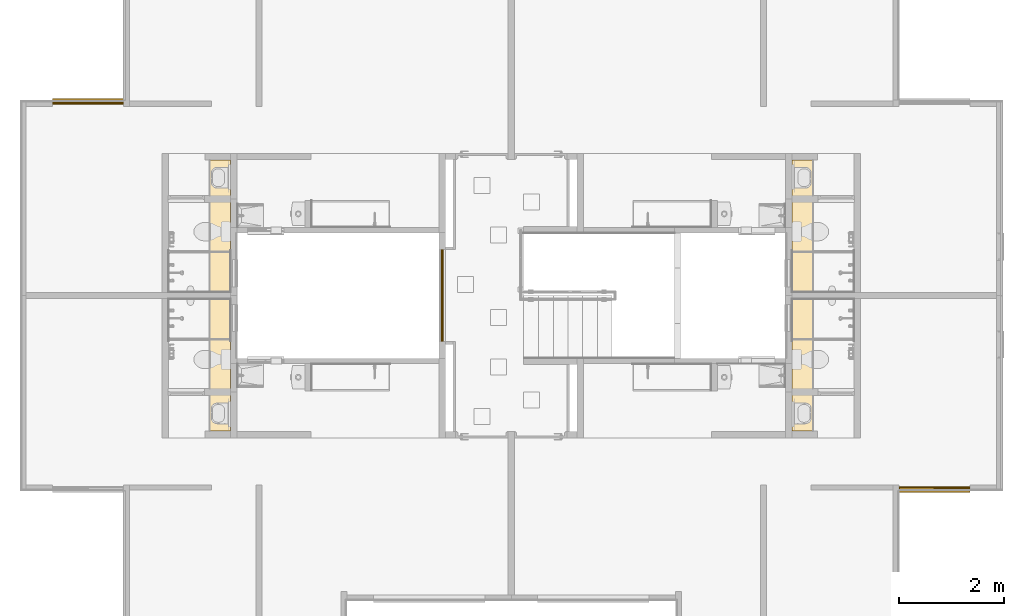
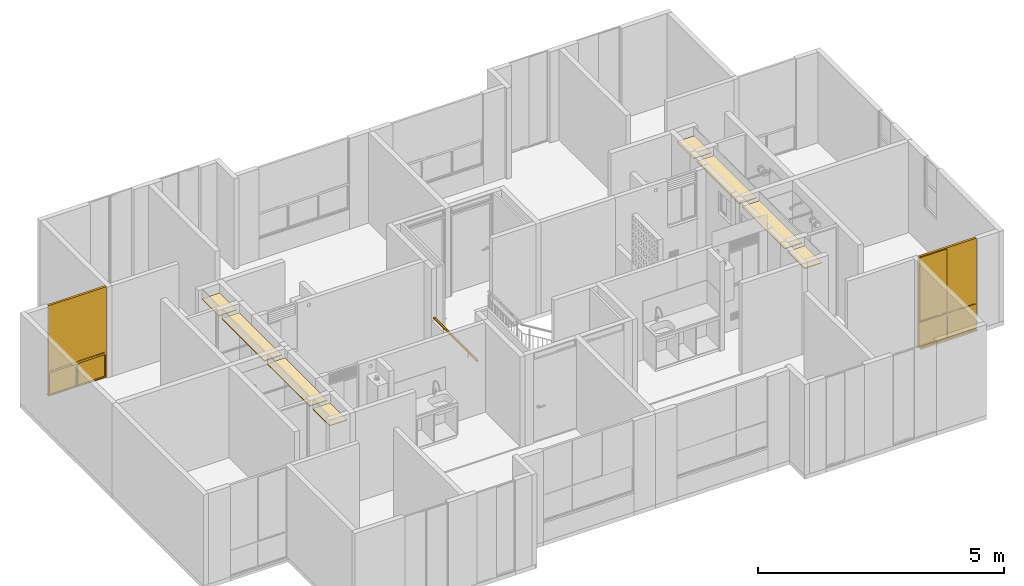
# One storey, part 36 of 47: 4 coverings, 2 windows, 1 railing.
"""IFC4 building model written with IfcOpenShell, lengths in metres."""

from ifc_helpers import new_model, entity, si_unit, converted_unit, derived_unit, direction, frame, origin, place, context, subcontext, project, spatial, arc, indexed_curve, outline, extrude, polygons, source, transform, mapped, material, constituent, constituent_set, type_object, type_shapes, element, save


model = new_model("IFC4")

# Units and contexts
model_context = context("Model", 3, precision=1e-05, world=origin(), true_north=direction((6.123031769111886e-17, 1.0)))
body_context = subcontext(model_context, "Body", "Model", "MODEL_VIEW")
ifc_project = project(units=[si_unit("LENGTHUNIT", "METRE"), si_unit("AREAUNIT", "SQUARE_METRE"), si_unit("VOLUMEUNIT", "CUBIC_METRE"), converted_unit("PLANEANGLEUNIT", "DEGREE", entity("IfcRatioMeasure", 0.017453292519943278), si_unit("PLANEANGLEUNIT", "RADIAN"), dimensions=[0, 0, 0, 0, 0, 0, 0]), si_unit("MASSUNIT", "GRAM", prefix="KILO"), derived_unit("MASSDENSITYUNIT", [(si_unit("MASSUNIT", "GRAM", prefix="KILO"), 1), (si_unit("LENGTHUNIT", "METRE"), -3)]), derived_unit("IONCONCENTRATIONUNIT", [(si_unit("MASSUNIT", "GRAM", prefix="KILO"), 1), (si_unit("LENGTHUNIT", "METRE"), -3)]), derived_unit("MOMENTOFINERTIAUNIT", [(si_unit("LENGTHUNIT", "METRE"), 4)]), si_unit("TIMEUNIT", "SECOND"), si_unit("FREQUENCYUNIT", "HERTZ"), si_unit("THERMODYNAMICTEMPERATUREUNIT", "DEGREE_CELSIUS"), derived_unit("THERMALTRANSMITTANCEUNIT", [(si_unit("MASSUNIT", "GRAM", prefix="KILO"), 1), (si_unit("THERMODYNAMICTEMPERATUREUNIT", "KELVIN"), -1), (si_unit("TIMEUNIT", "SECOND"), -3)]), derived_unit("THERMALCONDUCTANCEUNIT", [(si_unit("MASSUNIT", "GRAM", prefix="KILO"), 1), (si_unit("THERMODYNAMICTEMPERATUREUNIT", "KELVIN"), -1), (si_unit("TIMEUNIT", "SECOND"), -3), (si_unit("LENGTHUNIT", "METRE"), 1)]), derived_unit("VOLUMETRICFLOWRATEUNIT", [(si_unit("LENGTHUNIT", "METRE"), 3), (si_unit("TIMEUNIT", "SECOND"), -1)]), derived_unit("MASSFLOWRATEUNIT", [(si_unit("MASSUNIT", "GRAM", prefix="KILO"), 1), (si_unit("TIMEUNIT", "SECOND"), -1)]), derived_unit("ROTATIONALFREQUENCYUNIT", [(si_unit("TIMEUNIT", "SECOND"), -1)]), si_unit("ELECTRICCURRENTUNIT", "AMPERE"), si_unit("ELECTRICVOLTAGEUNIT", "VOLT"), si_unit("POWERUNIT", "WATT"), si_unit("FORCEUNIT", "NEWTON", prefix="KILO"), si_unit("ILLUMINANCEUNIT", "LUX"), si_unit("LUMINOUSFLUXUNIT", "LUMEN"), si_unit("LUMINOUSINTENSITYUNIT", "CANDELA"), derived_unit("USERDEFINED", [(si_unit("MASSUNIT", "GRAM", prefix="KILO"), -1), (si_unit("LENGTHUNIT", "METRE"), -2), (si_unit("TIMEUNIT", "SECOND"), 3), (si_unit("LUMINOUSFLUXUNIT", "LUMEN"), 1)]), derived_unit("USERDEFINED", [(si_unit("MASSUNIT", "GRAM", prefix="KILO"), 1), (si_unit("TIMEUNIT", "SECOND"), -3), (si_unit("LENGTHUNIT", "METRE"), 3), (si_unit("ELECTRICCURRENTUNIT", "AMPERE"), -2)]), derived_unit("SOUNDPOWERUNIT", [(si_unit("MASSUNIT", "GRAM", prefix="KILO"), 1), (si_unit("TIMEUNIT", "SECOND"), -3), (si_unit("LENGTHUNIT", "METRE"), 2)]), derived_unit("SOUNDPRESSUREUNIT", [(si_unit("MASSUNIT", "GRAM", prefix="KILO"), 1), (si_unit("LENGTHUNIT", "METRE"), -1), (si_unit("TIMEUNIT", "SECOND"), -2)]), derived_unit("LINEARVELOCITYUNIT", [(si_unit("LENGTHUNIT", "METRE"), 1), (si_unit("TIMEUNIT", "SECOND"), -1)]), si_unit("PRESSUREUNIT", "PASCAL"), derived_unit("USERDEFINED", [(si_unit("MASSUNIT", "GRAM", prefix="KILO"), 1), (si_unit("LENGTHUNIT", "METRE"), -2), (si_unit("TIMEUNIT", "SECOND"), -2)]), derived_unit("LINEARFORCEUNIT", [(si_unit("MASSUNIT", "GRAM", prefix="KILO"), 1), (si_unit("TIMEUNIT", "SECOND"), -2)]), derived_unit("PLANARFORCEUNIT", [(si_unit("MASSUNIT", "GRAM", prefix="KILO"), 1), (si_unit("LENGTHUNIT", "METRE"), -1), (si_unit("TIMEUNIT", "SECOND"), -2)]), derived_unit("SPECIFICHEATCAPACITYUNIT", [(si_unit("THERMODYNAMICTEMPERATUREUNIT", "KELVIN"), -1), (si_unit("LENGTHUNIT", "METRE"), 2), (si_unit("TIMEUNIT", "SECOND"), -2)]), derived_unit("HEATINGVALUEUNIT", [(si_unit("LENGTHUNIT", "METRE"), 2), (si_unit("TIMEUNIT", "SECOND"), -2)]), derived_unit("VAPORPERMEABILITYUNIT", [(si_unit("LENGTHUNIT", "METRE"), -1), (si_unit("TIMEUNIT", "SECOND"), 1)]), derived_unit("DYNAMICVISCOSITYUNIT", [(si_unit("MASSUNIT", "GRAM", prefix="KILO"), 1), (si_unit("TIMEUNIT", "SECOND"), -1), (si_unit("LENGTHUNIT", "METRE"), -1)]), derived_unit("THERMALEXPANSIONCOEFFICIENTUNIT", [(si_unit("THERMODYNAMICTEMPERATUREUNIT", "KELVIN"), -1)]), derived_unit("MODULUSOFELASTICITYUNIT", [(si_unit("MASSUNIT", "GRAM", prefix="KILO"), 1), (si_unit("LENGTHUNIT", "METRE"), -1), (si_unit("TIMEUNIT", "SECOND"), -2)]), derived_unit("ISOTHERMALMOISTURECAPACITYUNIT", [(si_unit("LENGTHUNIT", "METRE"), 3), (si_unit("MASSUNIT", "GRAM", prefix="KILO"), -1)]), derived_unit("MOISTUREDIFFUSIVITYUNIT", [(si_unit("TIMEUNIT", "SECOND"), -1), (si_unit("LENGTHUNIT", "METRE"), 2)])], contexts=[model_context])

# Site, building, storey
site_placement = place(None, origin())
site = spatial("IfcSite", under=ifc_project, at=site_placement, Name="Default", CompositionType="ELEMENT")
building_placement = place(site_placement, origin())
building = spatial("IfcBuilding", under=site, at=building_placement, CompositionType="ELEMENT")
storey_placement = place(building_placement, frame((0.0, 0.0, 11.750000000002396)))
storey = spatial("IfcBuildingStorey", under=building, at=storey_placement, Name="Nivel 6", CompositionType="ELEMENT", Elevation=11.750000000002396)

# Windows
ifc_material_1 = material(Name="Vidrio", Category="Materials")
ifc_constituent_1 = constituent(ifc_material_1, Name="Vidrio", Category="Materials")
ifc_material_2 = material(Name="Aluminio", Category="Materials")
ifc_constituent_2 = constituent(ifc_material_2, Name="Aluminio", Category="Materials")
ifc_material_3 = material(Name="<Unnamed>")
ifc_constituent_3 = constituent(ifc_material_3, Name="<Unnamed>")
ifc_constituent_set_1 = constituent_set(constituents=[ifc_constituent_1, ifc_constituent_2, ifc_constituent_3])
ifc_constituent_4 = constituent(ifc_material_1, Name="Vidrio", Category="Materials")
ifc_constituent_5 = constituent(ifc_material_2, Name="Aluminio", Category="Materials")
ifc_constituent_6 = constituent(ifc_material_3, Name="<Unnamed>")
ifc_constituent_set_2 = constituent_set(constituents=[ifc_constituent_4, ifc_constituent_5, ifc_constituent_6])
window_type = type_object("IfcWindowType", Name="B2020 - Ventana corrediza - Aluminio + Vidrio:B2020 - 1.35m x 2.25m - Ventana corrediza 2C - Aluminio + Vidrio", PartitioningType="NOTDEFINED", PredefinedType="WINDOW", material=ifc_constituent_set_2)
shared_shape = source(origin(), body_context, "Body", "Tessellation", [
    polygons([(0.020000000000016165, 0.044249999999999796, 2.2300000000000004), (0.020000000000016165, 0.044249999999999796, 0.6174999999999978), (0.6750000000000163, 0.04424999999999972, 0.6174999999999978), (0.6750000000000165, 0.04424999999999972, 2.2300000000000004), (0.6750000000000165, 0.04824999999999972, 2.2300000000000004), (0.020000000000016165, 0.04824999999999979, 2.2300000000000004), (0.6750000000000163, 0.04824999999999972, 0.6174999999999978), (0.020000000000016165, 0.04824999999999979, 0.6174999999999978)], [[[1, 2, 3, 4]], [[4, 5, 6, 1]], [[3, 7, 5, 4]], [[1, 6, 8, 2]], [[6, 5, 7, 8]], [[2, 8, 7, 3]]], closed=True),
    polygons([(1.3300000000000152, 0.04424999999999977, 2.2300000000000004), (0.6700000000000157, 0.044249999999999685, 2.2300000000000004), (0.6700000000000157, 0.044249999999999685, 0.6174999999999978), (1.3300000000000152, 0.04424999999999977, 0.6174999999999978), (1.3300000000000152, 0.048249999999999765, 0.6174999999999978), (1.3300000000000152, 0.048249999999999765, 2.2300000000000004), (0.6700000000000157, 0.04824999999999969, 2.2300000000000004), (0.6700000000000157, 0.04824999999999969, 0.6174999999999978)], [[[1, 2, 3, 4]], [[4, 5, 6, 1]], [[2, 7, 8, 3]], [[1, 6, 7, 2]], [[6, 5, 8, 7]], [[3, 8, 5, 4]]], closed=True),
    polygons([(0.6700000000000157, 0.048249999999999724, 0.6174999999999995), (0.6700000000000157, 0.048249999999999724, 2.230000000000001), (0.6700000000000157, 0.044249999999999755, 2.230000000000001), (0.6700000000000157, 0.044249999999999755, 0.6174999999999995), (1.3300000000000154, 0.04424999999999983, 2.230000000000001), (1.3300000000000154, 0.04424999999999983, 0.6174999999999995), (0.685000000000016, 0.044249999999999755, 2.2150000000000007), (0.685000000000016, 0.044249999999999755, 0.6324999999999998), (1.315000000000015, 0.04424999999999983, 0.6324999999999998), (1.315000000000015, 0.04424999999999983, 2.2150000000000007), (1.3300000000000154, 0.0482499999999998, 2.230000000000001), (1.3300000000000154, 0.0482499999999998, 0.6174999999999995), (0.685000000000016, 0.048249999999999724, 0.6324999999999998), (0.685000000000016, 0.048249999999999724, 2.2150000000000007), (1.315000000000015, 0.04824999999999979, 2.2150000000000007), (1.315000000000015, 0.04824999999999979, 0.6324999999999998), (0.685000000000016, 0.05299999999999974, 0.6324999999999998), (0.685000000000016, 0.05299999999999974, 2.2150000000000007), (1.315000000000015, 0.05299999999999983, 2.2150000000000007), (1.315000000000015, 0.05299999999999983, 0.6324999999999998), (0.6650000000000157, 0.05299999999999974, 0.6124999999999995), (0.6650000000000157, 0.05299999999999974, 2.2350000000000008), (1.3350000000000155, 0.05299999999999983, 2.2350000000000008), (1.3350000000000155, 0.05299999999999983, 0.6124999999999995), (0.6650000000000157, 0.03949999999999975, 0.6124999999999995), (0.6650000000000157, 0.03949999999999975, 2.2350000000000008), (1.3350000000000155, 0.03949999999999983, 2.2350000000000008), (1.3350000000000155, 0.03949999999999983, 0.6124999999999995), (0.685000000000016, 0.03949999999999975, 0.6324999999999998), (0.685000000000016, 0.03949999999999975, 2.2150000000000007), (1.315000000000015, 0.03949999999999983, 2.2150000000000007), (1.315000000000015, 0.03949999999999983, 0.6324999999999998)], [[[1, 2, 3, 4]], [[4, 3, 5, 6], [7, 8, 9, 10]], [[2, 11, 5, 3]], [[2, 1, 12, 11], [13, 14, 15, 16]], [[17, 18, 14, 13]], [[18, 19, 15, 14]], [[21, 22, 23, 24], [18, 17, 20, 19]], [[25, 26, 22, 21]], [[26, 27, 23, 22]], [[26, 25, 28, 27], [29, 30, 31, 32]], [[8, 7, 30, 29]], [[7, 10, 31, 30]], [[11, 12, 6, 5]], [[19, 20, 16, 15]], [[27, 28, 24, 23]], [[10, 9, 32, 31]], [[12, 1, 4, 6]], [[20, 17, 13, 16]], [[28, 25, 21, 24]], [[9, 8, 29, 32]]], closed=True),
    polygons([(0.6800000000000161, 0.06674999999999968, 2.229999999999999), (0.02000000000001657, 0.06674999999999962, 2.229999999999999), (0.02000000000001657, 0.06674999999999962, 0.6174999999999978), (0.6800000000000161, 0.06674999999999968, 0.6174999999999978), (0.6800000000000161, 0.07074999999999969, 0.6174999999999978), (0.6800000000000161, 0.07074999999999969, 2.229999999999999), (0.02000000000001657, 0.0707499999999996, 2.229999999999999), (0.02000000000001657, 0.0707499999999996, 0.6174999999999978)], [[[1, 2, 3, 4]], [[4, 5, 6, 1]], [[2, 7, 8, 3]], [[1, 6, 7, 2]], [[6, 5, 8, 7]], [[3, 8, 5, 4]]], closed=True),
    polygons([(0.020000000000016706, 0.07074999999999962, 0.6175), (0.020000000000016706, 0.07074999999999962, 2.2299999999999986), (0.020000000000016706, 0.06674999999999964, 2.2299999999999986), (0.020000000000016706, 0.06674999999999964, 0.6175), (0.6800000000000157, 0.06674999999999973, 2.2299999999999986), (0.6800000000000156, 0.06674999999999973, 0.6175000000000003), (0.035000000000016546, 0.06674999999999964, 2.214999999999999), (0.035000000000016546, 0.06674999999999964, 0.6324999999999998), (0.6650000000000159, 0.06674999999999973, 0.6324999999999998), (0.6650000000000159, 0.06674999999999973, 2.214999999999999), (0.6800000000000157, 0.0707499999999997, 2.2299999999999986), (0.6800000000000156, 0.0707499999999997, 0.6175), (0.035000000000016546, 0.07074999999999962, 0.6324999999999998), (0.035000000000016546, 0.07074999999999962, 2.214999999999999), (0.6650000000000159, 0.0707499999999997, 2.214999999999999), (0.6650000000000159, 0.0707499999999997, 0.6324999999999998), (0.035000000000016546, 0.07549999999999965, 0.6324999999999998), (0.035000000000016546, 0.07549999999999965, 2.214999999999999), (0.6650000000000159, 0.07549999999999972, 2.214999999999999), (0.6650000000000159, 0.07549999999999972, 0.6324999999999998), (0.015000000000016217, 0.07549999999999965, 0.6124999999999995), (0.015000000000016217, 0.07549999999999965, 2.2349999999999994), (0.6850000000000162, 0.07549999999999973, 2.2349999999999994), (0.685000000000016, 0.07549999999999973, 0.6124999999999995), (0.015000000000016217, 0.06199999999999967, 0.6124999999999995), (0.015000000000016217, 0.06199999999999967, 2.2349999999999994), (0.6850000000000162, 0.06199999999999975, 2.2349999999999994), (0.685000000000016, 0.06199999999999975, 0.6124999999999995), (0.035000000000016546, 0.06199999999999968, 0.6324999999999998), (0.035000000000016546, 0.06199999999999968, 2.214999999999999), (0.6650000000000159, 0.06199999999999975, 2.214999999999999), (0.6650000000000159, 0.06199999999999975, 0.6324999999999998)], [[[1, 2, 3, 4]], [[4, 3, 5, 6], [7, 8, 9, 10]], [[2, 11, 5, 3]], [[2, 1, 12, 11], [13, 14, 15, 16]], [[17, 18, 14, 13]], [[18, 19, 15, 14]], [[21, 22, 23, 24], [18, 17, 20, 19]], [[25, 26, 22, 21]], [[26, 27, 23, 22]], [[26, 25, 28, 27], [29, 30, 31, 32]], [[8, 7, 30, 29]], [[7, 10, 31, 30]], [[11, 12, 6, 5]], [[19, 20, 16, 15]], [[27, 28, 24, 23]], [[10, 9, 32, 31]], [[12, 1, 4, 6]], [[20, 17, 13, 16]], [[28, 25, 21, 24]], [[9, 8, 29, 32]]], closed=True),
    polygons([(0.025000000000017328, 0.037499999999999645, 2.224999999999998), (1.3250000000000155, 0.037499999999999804, 2.2249999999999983), (1.3250000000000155, 0.03249999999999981, 2.2249999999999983), (0.025000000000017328, 0.03249999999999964, 2.224999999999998), (1.325000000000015, 0.037499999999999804, 0.6200000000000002), (1.3250000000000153, 0.03249999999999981, 0.6200000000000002), (0.025000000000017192, 0.03249999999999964, 0.6200000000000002), (1.3500000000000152, 0.03249999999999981, 0.595), (1.3500000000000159, 0.03249999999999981, 2.2499999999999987), (1.6919798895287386e-14, 0.03249999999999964, 2.2499999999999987), (1.6919798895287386e-14, 0.03249999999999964, 0.595), (0.025000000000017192, 0.037499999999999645, 0.6200000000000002), (1.345000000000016, 0.037499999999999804, 2.2449999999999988), (1.3450000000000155, 0.037499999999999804, 0.5999999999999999), (0.005000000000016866, 0.037499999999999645, 0.5999999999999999), (0.005000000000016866, 0.037499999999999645, 2.2449999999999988), (0.005000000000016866, 0.054999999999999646, 2.2449999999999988), (1.345000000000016, 0.05499999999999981, 2.2449999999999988), (1.3450000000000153, 0.05499999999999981, 0.5999999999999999), (0.005000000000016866, 0.054999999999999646, 0.5999999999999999), (1.3250000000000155, 0.054999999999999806, 2.2249999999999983), (1.3250000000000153, 0.054999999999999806, 0.6200000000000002), (0.025000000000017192, 0.05499999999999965, 0.6200000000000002), (0.025000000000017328, 0.05499999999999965, 2.2249999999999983), (0.025000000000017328, 0.05999999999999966, 2.224999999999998), (1.3250000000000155, 0.05999999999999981, 2.2249999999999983), (1.325000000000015, 0.05999999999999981, 0.6200000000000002), (0.025000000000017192, 0.05999999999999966, 0.6200000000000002), (1.345000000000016, 0.05999999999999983, 2.2449999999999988), (1.3450000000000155, 0.05999999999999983, 0.5999999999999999), (0.005000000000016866, 0.05999999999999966, 0.5999999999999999), (0.005000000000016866, 0.05999999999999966, 2.2449999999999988), (0.005000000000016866, 0.07749999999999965, 2.2449999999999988), (1.345000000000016, 0.07749999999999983, 2.2449999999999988), (1.3450000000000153, 0.07749999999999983, 0.5999999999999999), (0.005000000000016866, 0.07749999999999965, 0.5999999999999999), (1.3250000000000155, 0.07749999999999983, 2.2249999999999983), (1.3250000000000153, 0.07749999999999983, 0.6200000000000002), (0.025000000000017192, 0.07749999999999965, 0.6200000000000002), (0.025000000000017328, 0.07749999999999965, 2.2249999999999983), (0.025000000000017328, 0.08249999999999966, 2.224999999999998), (1.3250000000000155, 0.08249999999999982, 2.2249999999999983), (1.325000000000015, 0.08249999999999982, 0.6200000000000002), (0.025000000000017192, 0.08249999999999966, 0.6200000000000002), (1.3500000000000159, 0.08249999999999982, 2.2499999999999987), (1.3500000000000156, 0.08249999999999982, 0.595), (1.6919798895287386e-14, 0.08249999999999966, 0.595), (1.6919798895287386e-14, 0.08249999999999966, 2.2499999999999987)], [[[1, 2, 3, 4]], [[2, 5, 6, 3]], [[8, 9, 10, 11], [3, 6, 7, 4]], [[13, 14, 15, 16], [5, 2, 1, 12]], [[17, 18, 13, 16]], [[18, 19, 14, 13]], [[19, 18, 17, 20], [21, 22, 23, 24]], [[25, 26, 21, 24]], [[26, 27, 22, 21]], [[29, 30, 31, 32], [27, 26, 25, 28]], [[33, 34, 29, 32]], [[34, 35, 30, 29]], [[35, 34, 33, 36], [37, 38, 39, 40]], [[41, 42, 37, 40]], [[42, 43, 38, 37]], [[45, 46, 47, 48], [43, 42, 41, 44]], [[10, 9, 45, 48]], [[9, 8, 46, 45]], [[12, 1, 4, 7]], [[20, 17, 16, 15]], [[28, 25, 24, 23]], [[36, 33, 32, 31]], [[44, 41, 40, 39]], [[11, 10, 48, 47]], [[5, 12, 7, 6]], [[19, 20, 15, 14]], [[27, 28, 23, 22]], [[35, 36, 31, 30]], [[43, 44, 39, 38]], [[8, 11, 47, 46]]], closed=True),
    polygons([(1.330000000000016, 0.08250000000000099, 0.5749999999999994), (1.330000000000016, 0.08250000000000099, 0.020000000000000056), (1.330000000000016, 0.0324999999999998, 0.020000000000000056), (1.330000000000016, 0.03249999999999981, 0.5749999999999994), (0.6850000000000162, 0.08250000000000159, 0.01999999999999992), (0.6850000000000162, 0.03250000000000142, 0.01999999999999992), (1.3500000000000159, 0.03250000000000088, 0.5949999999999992), (1.3500000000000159, 0.03250000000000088, 2.707167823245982e-16), (1.3500000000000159, 0.08249999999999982, 2.707167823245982e-16), (1.3500000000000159, 0.08249999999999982, 0.5949999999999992), (1.624300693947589e-14, 0.03250000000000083, 2.707167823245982e-16), (1.624300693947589e-14, 0.08249999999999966, 2.707167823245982e-16), (0.020000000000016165, 0.08250000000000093, 0.020000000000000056), (0.020000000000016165, 0.08250000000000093, 0.5749999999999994), (0.02000000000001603, 0.03249999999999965, 0.5749999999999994), (0.02000000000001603, 0.03249999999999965, 0.020000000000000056), (1.624300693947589e-14, 0.03250000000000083, 0.5949999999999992), (1.624300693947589e-14, 0.08249999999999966, 0.5949999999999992), (0.6650000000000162, 0.08250000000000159, 0.5749999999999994), (0.6650000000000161, 0.03250000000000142, 0.5749999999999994), (0.6650000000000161, 0.08250000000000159, 0.01999999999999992), (0.6650000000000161, 0.03250000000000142, 0.01999999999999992), (0.6850000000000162, 0.03250000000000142, 0.5749999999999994), (0.6850000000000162, 0.08250000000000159, 0.5749999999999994)], [[[1, 2, 3, 4]], [[2, 5, 6, 3]], [[7, 8, 9, 10]], [[8, 11, 12, 9]], [[13, 14, 15, 16]], [[11, 17, 18, 12]], [[14, 19, 20, 15]], [[10, 18, 17, 7]], [[21, 22, 20, 19]], [[7, 17, 11, 8], [22, 16, 15, 20], [23, 4, 3, 6]], [[24, 23, 6, 5]], [[9, 12, 18, 10], [5, 2, 1, 24], [19, 14, 13, 21]], [[4, 23, 24, 1]], [[16, 22, 21, 13]]], closed=True),
    polygons([(0.6650000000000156, 0.07213901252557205, 0.019999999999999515), (0.6650000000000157, 0.06813901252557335, 0.019999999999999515), (0.020000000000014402, 0.06813901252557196, 0.019999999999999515), (0.020000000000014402, 0.07213901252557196, 0.019999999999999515), (0.6650000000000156, 0.07213901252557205, 0.5849999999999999), (0.020000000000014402, 0.07213901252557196, 0.5849999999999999), (0.020000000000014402, 0.06813901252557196, 0.5849999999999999), (0.6650000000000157, 0.06813901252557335, 0.5849999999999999)], [[[1, 2, 3, 4]], [[5, 1, 4, 6]], [[6, 4, 3, 7]], [[7, 3, 2, 8]], [[8, 2, 1, 5]], [[5, 6, 7, 8]]], closed=True),
    polygons([(0.6850000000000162, 0.07213901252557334, 0.019999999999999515), (1.3300000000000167, 0.07213901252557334, 0.019999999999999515), (1.3300000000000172, 0.06813901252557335, 0.019999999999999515), (0.6850000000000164, 0.06813901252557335, 0.019999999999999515), (0.6850000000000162, 0.07213901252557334, 0.5849999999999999), (0.6850000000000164, 0.06813901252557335, 0.5849999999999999), (1.3300000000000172, 0.06813901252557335, 0.5849999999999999), (1.3300000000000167, 0.07213901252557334, 0.5849999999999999)], [[[1, 2, 3, 4]], [[5, 1, 4, 6]], [[6, 4, 3, 7]], [[7, 3, 2, 8]], [[8, 2, 1, 5]], [[5, 6, 7, 8]]], closed=True),
    polygons([(1.350000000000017, 0.11499999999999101, -4.060751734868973e-16), (1.350000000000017, 0.14098076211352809, -0.015000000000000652), (1.350000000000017, 0.14348076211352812, -0.010669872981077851), (1.350000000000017, 0.11633974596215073, 0.0049999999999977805), (1.350000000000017, 0.08249999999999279, 0.0049999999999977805), (1.350000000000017, 0.08249999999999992, -4.060751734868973e-16), (1.7461232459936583e-14, 0.11499999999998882, -4.060751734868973e-16), (1.7461232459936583e-14, 0.08249999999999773, -4.060751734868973e-16), (1.7461232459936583e-14, 0.08249999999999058, 0.0049999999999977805), (1.7461232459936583e-14, 0.11633974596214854, 0.0049999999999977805), (1.7325874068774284e-14, 0.14348076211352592, -0.010669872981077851), (1.7325874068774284e-14, 0.1409807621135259, -0.015000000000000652)], [[[1, 2, 3, 4, 5, 6]], [[7, 8, 9, 10, 11, 12]], [[6, 8, 7, 1]], [[5, 9, 8, 6]], [[4, 10, 9, 5]], [[3, 11, 10, 4]], [[2, 12, 11, 3]], [[1, 7, 12, 2]]], closed=True),
])
type_shapes(window_type, [shared_shape])
window_1_placement = place(storey_placement, frame((0.5674999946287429, -2.810000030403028, 0.0)))
element("IfcWindow", 1, at=window_1_placement, inside=storey, type_object=window_type, material=ifc_constituent_set_1, Name="B2020 - Ventana corrediza - Aluminio + Vidrio:B2020 - 1.35m x 2.25m - Ventana corrediza 2C - Aluminio + Vidrio", ObjectType="B2020 - Ventana corrediza - Aluminio + Vidrio:B2020 - 1.35m x 2.25m - Ventana corrediza 2C - Aluminio + Vidrio", OverallHeight=2.265, OverallWidth=1.3500000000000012, PartitioningType="NOTDEFINED", PredefinedType="WINDOW", context=body_context, shape_type="MappedRepresentation", body=[
    mapped(shared_shape, transform((0.0, 0.0, 0.0), scale=1.0)),
])
ifc_constituent_7 = constituent(ifc_material_1, Name="Vidrio", Category="Materials")
ifc_constituent_8 = constituent(ifc_material_2, Name="Aluminio", Category="Materials")
ifc_constituent_9 = constituent(ifc_material_3, Name="<Unnamed>")
ifc_constituent_set_3 = constituent_set(constituents=[ifc_constituent_7, ifc_constituent_8, ifc_constituent_9])
window_2_placement = place(storey_placement, frame((18.077500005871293, -10.040000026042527, 0.0), z_axis=(0.0, 0.0, 1.0), x_axis=(-1.0, 0.0, 0.0)))
element("IfcWindow", 2, at=window_2_placement, inside=storey, type_object=window_type, material=ifc_constituent_set_3, Name="B2020 - Ventana corrediza - Aluminio + Vidrio:B2020 - 1.35m x 2.25m - Ventana corrediza 2C - Aluminio + Vidrio", ObjectType="B2020 - Ventana corrediza - Aluminio + Vidrio:B2020 - 1.35m x 2.25m - Ventana corrediza 2C - Aluminio + Vidrio", OverallHeight=2.265, OverallWidth=1.3500000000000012, PartitioningType="NOTDEFINED", PredefinedType="WINDOW", context=body_context, shape_type="MappedRepresentation", body=[
    mapped(shared_shape, transform((0.0, 0.0, 0.0), scale=1.0)),
])

# Space
space_1_placement = place(storey_placement, origin())
space_1 = spatial("IfcSpace", under=storey, at=space_1_placement, Name="319", CompositionType="ELEMENT", PredefinedType="SPACE")

# Covering
ifc_material_4 = material(Name="Plasterboard", Category="Materials")
covering_type = type_object("IfcCoveringType", Name="Compound Ceiling:C1070 - 0.02m - Plafón - Drywall", PredefinedType="CEILING")
covering_1_placement = place(space_1_placement, origin())
element("IfcCovering", 3, at=covering_1_placement, inside=space_1, type_object=covering_type, material=ifc_material_4, Name="Compound Ceiling:C1070 - 0.02m - Plafón - Drywall", ObjectType="Compound Ceiling:C1070 - 0.02m - Plafón - Drywall", PredefinedType="CEILING", context=body_context, shape_type="SweptSolid", body=[
    extrude(outline(indexed_curve([(-0.862499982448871, -0.20500000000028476), (0.8624999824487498, -0.20500000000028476), (0.862499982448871, 0.20500000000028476), (-0.8624999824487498, 0.20500000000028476), (-0.862499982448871, -0.20500000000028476)], self_intersect=False)), frame((3.7574999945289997, -5.502500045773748, 2.0), z_axis=(0.0, 0.0, 1.0), x_axis=(0.0, 1.0, 0.0)), (0.0, 0.0, 1.0), 0.019999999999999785),
    extrude(outline(indexed_curve([(-0.3449999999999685, -0.20500000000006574), (0.3449999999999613, -0.20500000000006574), (0.3449999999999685, 0.20500000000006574), (-0.3449999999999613, 0.20500000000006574), (-0.3449999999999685, -0.20500000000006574)], self_intersect=False)), frame((3.7574999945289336, -4.18000006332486, 2.0), z_axis=(0.0, 0.0, 1.0), x_axis=(0.0, 1.0, 0.0)), (0.0, 0.0, 1.0), 0.019999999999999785),
])

# Space
space_2_placement = place(storey_placement, origin())
space_2 = spatial("IfcSpace", under=storey, at=space_2_placement, Name="326", CompositionType="ELEMENT", PredefinedType="SPACE")

# Covering
covering_2_placement = place(space_2_placement, origin())
element("IfcCovering", 4, at=covering_2_placement, inside=space_2, type_object=covering_type, material=ifc_material_4, Name="Compound Ceiling:C1070 - 0.02m - Plafón - Drywall", ObjectType="Compound Ceiling:C1070 - 0.02m - Plafón - Drywall", PredefinedType="CEILING", context=body_context, shape_type="SweptSolid", body=[
    extrude(outline(indexed_curve([(-0.2050000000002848, -0.862499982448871), (0.20500000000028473, -0.862499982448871), (0.2050000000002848, 0.862499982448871), (-0.20500000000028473, 0.862499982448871), (-0.2050000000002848, -0.862499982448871)], self_intersect=False)), frame((3.7574999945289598, -7.347500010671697, 2.0), z_axis=(0.0, 0.0, 1.0), x_axis=(-1.0, 0.0, 0.0)), (0.0, 0.0, 1.0), 0.019999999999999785),
    extrude(outline(indexed_curve([(-0.20500000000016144, -0.3450000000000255), (0.20500000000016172, -0.3450000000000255), (0.20500000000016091, 0.3450000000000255), (-0.20500000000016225, 0.3450000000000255), (-0.20500000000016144, -0.3450000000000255)], self_intersect=False)), frame((3.757499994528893, -8.669999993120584, 2.0), z_axis=(0.0, 0.0, 1.0), x_axis=(-1.0, 0.0, 0.0)), (0.0, 0.0, 1.0), 0.019999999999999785),
])

# Space
space_3_placement = place(storey_placement, origin())
space_3 = spatial("IfcSpace", under=storey, at=space_3_placement, Name="334", CompositionType="ELEMENT", PredefinedType="SPACE")

# Covering
covering_3_placement = place(space_3_placement, origin())
element("IfcCovering", 5, at=covering_3_placement, inside=space_3, type_object=covering_type, material=ifc_material_4, Name="Compound Ceiling:C1070 - 0.02m - Plafón - Drywall", ObjectType="Compound Ceiling:C1070 - 0.02m - Plafón - Drywall", PredefinedType="CEILING", context=body_context, shape_type="SweptSolid", body=[
    extrude(outline(indexed_curve([(-0.20500000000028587, -0.862499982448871), (0.20500000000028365, -0.862499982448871), (0.2050000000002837, 0.862499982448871), (-0.20500000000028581, 0.862499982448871), (-0.20500000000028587, -0.862499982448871)], self_intersect=False)), frame((14.887500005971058, -5.502500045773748, 2.0)), (0.0, 0.0, 1.0), 0.019999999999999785),
    extrude(outline(indexed_curve([(-0.20500000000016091, -0.3450000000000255), (0.20500000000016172, -0.3450000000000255), (0.20500000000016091, 0.3450000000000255), (-0.20500000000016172, 0.3450000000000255), (-0.20500000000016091, -0.3450000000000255)], self_intersect=False)), frame((14.887500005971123, -4.18000006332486, 2.0)), (0.0, 0.0, 1.0), 0.019999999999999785),
])

# Space
space_4_placement = place(storey_placement, origin())
space_4 = spatial("IfcSpace", under=storey, at=space_4_placement, Name="341", CompositionType="ELEMENT", PredefinedType="SPACE")

# Covering
covering_4_placement = place(space_4_placement, origin())
element("IfcCovering", 6, at=covering_4_placement, inside=space_4, type_object=covering_type, material=ifc_material_4, Name="Compound Ceiling:C1070 - 0.02m - Plafón - Drywall", ObjectType="Compound Ceiling:C1070 - 0.02m - Plafón - Drywall", PredefinedType="CEILING", context=body_context, shape_type="SweptSolid", body=[
    extrude(outline(indexed_curve([(-0.8624999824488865, -0.20500000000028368), (0.8624999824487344, -0.20500000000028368), (0.8624999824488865, 0.20500000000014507), (-0.8624999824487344, 0.2050000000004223), (-0.8624999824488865, -0.20500000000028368)], self_intersect=False)), frame((14.887500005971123, -7.347500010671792, 2.0), z_axis=(0.0, 0.0, 1.0), x_axis=(0.0, -1.0, 0.0)), (0.0, 0.0, 1.0), 0.019999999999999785),
    extrude(outline(indexed_curve([(-0.3450000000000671, -0.2050000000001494), (0.3449999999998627, -0.2050000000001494), (0.3450000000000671, 0.20499999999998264), (-0.3449999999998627, 0.20500000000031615), (-0.3450000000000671, -0.2050000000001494)], self_intersect=False)), frame((14.887500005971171, -8.66999999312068, 2.0), z_axis=(0.0, 0.0, 1.0), x_axis=(0.0, -1.0, 0.0)), (0.0, 0.0, 1.0), 0.019999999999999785),
])

# Railing
ifc_constituent_10 = constituent(ifc_material_3, Name="<Unnamed>")
ifc_constituent_11 = constituent(ifc_material_2, Name="Aluminio", Category="Materials")
ifc_constituent_set_4 = constituent_set(constituents=[ifc_constituent_10, ifc_constituent_11])
railing_placement = place(storey_placement, origin())
element("IfcRailing", 7, at=railing_placement, inside=storey, material=ifc_constituent_set_4, Name="Railing:C1090 - Baranda - Aluminio", ObjectType="Railing:C1090 - Baranda - Aluminio", PredefinedType="NOTDEFINED", context=body_context, shape_type="SweptSolid", body=[
    extrude(outline(indexed_curve([(0.012500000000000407, 0.0), (0.0, 0.012500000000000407), (-0.012500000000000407, 0.0), (0.0, -0.012500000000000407)], segments=[arc(1, 2, 3), arc(3, 4, 1)], self_intersect=False)), frame((8.005000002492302, -6.925000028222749, 0.8750000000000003)), (0.0, 0.0, 1.0), 0.12499999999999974),
    extrude(outline(indexed_curve([(0.012500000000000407, 0.0), (0.0, 0.012500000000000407), (-0.012500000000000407, 0.0), (0.0, -0.012500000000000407)], segments=[arc(1, 2, 3), arc(3, 4, 1)], self_intersect=False)), frame((8.005000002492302, -5.925000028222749, 0.8750000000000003)), (0.0, 0.0, 1.0), 0.12499999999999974),
    extrude(outline(indexed_curve([(-0.02499999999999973, 0.0), (0.0, -0.025000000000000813), (0.02499999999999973, 0.0), (0.0, 0.025000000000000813)], segments=[arc(1, 2, 3), arc(3, 4, 1)], self_intersect=False)), frame((8.005000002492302, -7.305000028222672, 1.0249999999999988), z_axis=(0.0, 1.0, 0.0), x_axis=(-1.0, 0.0, 0.0)), (0.0, 0.0, 1.0), 1.7599999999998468),
])

save(model, "model.ifc")
